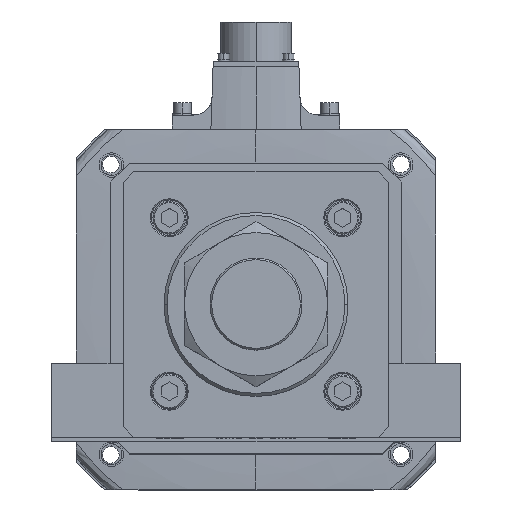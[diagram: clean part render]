
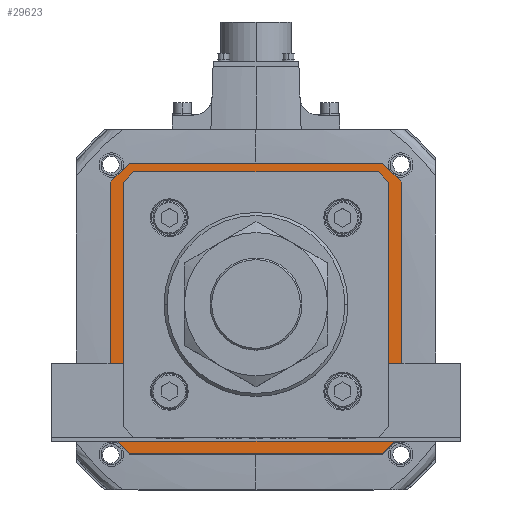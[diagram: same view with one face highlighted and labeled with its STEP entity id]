
A CAD part, top view. The second image highlights one B-rep face of the part: STEP entity #29623.
In plain terms, the highlighted planar face has unit normal (0, 0, 1).
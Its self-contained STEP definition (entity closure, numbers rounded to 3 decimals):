
#226 = LINE ( 'NONE', #48073, #8252 ) ;
#643 = DIRECTION ( 'NONE',  ( -0.707, 0.707, 0. ) ) ;
#905 = EDGE_CURVE ( 'NONE', #42449, #38513, #10309, .T. ) ;
#1090 = LINE ( 'NONE', #52008, #45189 ) ;
#2361 = DIRECTION ( 'NONE',  ( -0.707, 0.707, 0. ) ) ;
#2398 = DIRECTION ( 'NONE',  ( -1., 0., 0. ) ) ;
#4025 = EDGE_CURVE ( 'NONE', #45314, #32119, #52982, .T. ) ;
#4689 = VECTOR ( 'NONE', #26787, 1000. ) ;
#5168 = DIRECTION ( 'NONE',  ( 0., 1., 0. ) ) ;
#5181 = VERTEX_POINT ( 'NONE', #25546 ) ;
#5380 = LINE ( 'NONE', #49589, #8706 ) ;
#5396 = VECTOR ( 'NONE', #21217, 1000. ) ;
#7716 = CARTESIAN_POINT ( 'NONE',  ( -62., -71., -142. ) ) ;
#8168 = EDGE_CURVE ( 'NONE', #29006, #8605, #29998, .T. ) ;
#8172 = ORIENTED_EDGE ( 'NONE', *, *, #42253, .T. ) ;
#8252 = VECTOR ( 'NONE', #5168, 1000. ) ;
#8605 = VERTEX_POINT ( 'NONE', #12719 ) ;
#8651 = VECTOR ( 'NONE', #17523, 1000. ) ;
#8706 = VECTOR ( 'NONE', #19745, 1000. ) ;
#8908 = VECTOR ( 'NONE', #33525, 1000. ) ;
#9394 = LINE ( 'NONE', #15295, #26099 ) ;
#10013 = DIRECTION ( 'NONE',  ( 1., 0., 0. ) ) ;
#10141 = CARTESIAN_POINT ( 'NONE',  ( -62., 71., -142. ) ) ;
#10309 = LINE ( 'NONE', #30444, #49697 ) ;
#10348 = CARTESIAN_POINT ( 'NONE',  ( -63., -58.793, -142. ) ) ;
#11205 = ORIENTED_EDGE ( 'NONE', *, *, #8168, .T. ) ;
#11362 = CARTESIAN_POINT ( 'NONE',  ( 71., 62., -142. ) ) ;
#11742 = LINE ( 'NONE', #21901, #27747 ) ;
#12293 = CARTESIAN_POINT ( 'NONE',  ( 62., 71., -142. ) ) ;
#12393 = DIRECTION ( 'NONE',  ( 0., -1., 0. ) ) ;
#12719 = CARTESIAN_POINT ( 'NONE',  ( 58.793, -63., -142. ) ) ;
#13721 = ORIENTED_EDGE ( 'NONE', *, *, #29848, .F. ) ;
#15295 = CARTESIAN_POINT ( 'NONE',  ( 0., 63., -142. ) ) ;
#15491 = CARTESIAN_POINT ( 'NONE',  ( -71., -62., -142. ) ) ;
#16456 = CARTESIAN_POINT ( 'NONE',  ( -58.793, -63., -142. ) ) ;
#16747 = LINE ( 'NONE', #25661, #5396 ) ;
#16820 = ORIENTED_EDGE ( 'NONE', *, *, #28193, .F. ) ;
#17523 = DIRECTION ( 'NONE',  ( -0.707, -0.707, 0. ) ) ;
#17734 = EDGE_CURVE ( 'NONE', #32635, #5181, #9394, .T. ) ;
#18341 = VECTOR ( 'NONE', #36721, 1000. ) ;
#18725 = VERTEX_POINT ( 'NONE', #11362 ) ;
#19598 = FACE_BOUND ( 'NONE', #44771, .T. ) ;
#19745 = DIRECTION ( 'NONE',  ( 0.707, -0.707, 0. ) ) ;
#21217 = DIRECTION ( 'NONE',  ( 0.707, 0.707, 0. ) ) ;
#21901 = CARTESIAN_POINT ( 'NONE',  ( -62., -71., -142. ) ) ;
#22038 = CARTESIAN_POINT ( 'NONE',  ( 60.896, 60.896, -142. ) ) ;
#22220 = DIRECTION ( 'NONE',  ( 0.707, -0.707, 0. ) ) ;
#22683 = CARTESIAN_POINT ( 'NONE',  ( 71., -62., -142. ) ) ;
#24013 = LINE ( 'NONE', #22683, #4689 ) ;
#24972 = ORIENTED_EDGE ( 'NONE', *, *, #52816, .F. ) ;
#25012 = ORIENTED_EDGE ( 'NONE', *, *, #4025, .F. ) ;
#25247 = EDGE_CURVE ( 'NONE', #39460, #49319, #24013, .T. ) ;
#25511 = CARTESIAN_POINT ( 'NONE',  ( 0., 0., -142. ) ) ;
#25546 = CARTESIAN_POINT ( 'NONE',  ( 58.793, 63., -142. ) ) ;
#25661 = CARTESIAN_POINT ( 'NONE',  ( -60.896, 60.896, -142. ) ) ;
#26099 = VECTOR ( 'NONE', #49612, 1000. ) ;
#26609 = VECTOR ( 'NONE', #44672, 1000. ) ;
#26753 = LINE ( 'NONE', #27938, #30089 ) ;
#26787 = DIRECTION ( 'NONE',  ( -0.707, -0.707, 0. ) ) ;
#27318 = VECTOR ( 'NONE', #22220, 1000. ) ;
#27747 = VECTOR ( 'NONE', #643, 1000. ) ;
#27938 = CARTESIAN_POINT ( 'NONE',  ( 62., -71., -142. ) ) ;
#28193 = EDGE_CURVE ( 'NONE', #32119, #43273, #1090, .T. ) ;
#28439 = CARTESIAN_POINT ( 'NONE',  ( 0., -63., -142. ) ) ;
#28516 = EDGE_CURVE ( 'NONE', #8605, #28860, #39151, .T. ) ;
#28860 = VERTEX_POINT ( 'NONE', #16456 ) ;
#28893 = VERTEX_POINT ( 'NONE', #51333 ) ;
#29006 = VERTEX_POINT ( 'NONE', #43338 ) ;
#29301 = LINE ( 'NONE', #40213, #26609 ) ;
#29307 = ORIENTED_EDGE ( 'NONE', *, *, #37679, .F. ) ;
#29623 = ADVANCED_FACE ( 'NONE', ( #19598, #48302 ), #34115, .T. ) ;
#29848 = EDGE_CURVE ( 'NONE', #53394, #45314, #226, .T. ) ;
#29989 = DIRECTION ( 'NONE',  ( 1., 0., 0. ) ) ;
#29998 = LINE ( 'NONE', #47021, #8651 ) ;
#30089 = VECTOR ( 'NONE', #2398, 1000. ) ;
#30444 = CARTESIAN_POINT ( 'NONE',  ( -63., 0., -142. ) ) ;
#32119 = VERTEX_POINT ( 'NONE', #10141 ) ;
#32635 = VERTEX_POINT ( 'NONE', #54382 ) ;
#32706 = VERTEX_POINT ( 'NONE', #7716 ) ;
#32987 = EDGE_CURVE ( 'NONE', #18725, #39460, #29301, .T. ) ;
#33525 = DIRECTION ( 'NONE',  ( 0.707, 0.707, 0. ) ) ;
#34115 = PLANE ( 'NONE',  #39964 ) ;
#34596 = EDGE_CURVE ( 'NONE', #43273, #18725, #5380, .T. ) ;
#35297 = CARTESIAN_POINT ( 'NONE',  ( -71., 62., -142. ) ) ;
#35304 = LINE ( 'NONE', #45118, #42023 ) ;
#36499 = LINE ( 'NONE', #38398, #46497 ) ;
#36721 = DIRECTION ( 'NONE',  ( -1., 0., 0. ) ) ;
#36904 = ORIENTED_EDGE ( 'NONE', *, *, #17734, .T. ) ;
#37679 = EDGE_CURVE ( 'NONE', #32706, #53394, #11742, .T. ) ;
#38300 = ORIENTED_EDGE ( 'NONE', *, *, #50284, .T. ) ;
#38398 = CARTESIAN_POINT ( 'NONE',  ( 63., 0., -142. ) ) ;
#38507 = CARTESIAN_POINT ( 'NONE',  ( 62., -71., -142. ) ) ;
#38513 = VERTEX_POINT ( 'NONE', #51103 ) ;
#38642 = ORIENTED_EDGE ( 'NONE', *, *, #28516, .T. ) ;
#39151 = LINE ( 'NONE', #28439, #18341 ) ;
#39460 = VERTEX_POINT ( 'NONE', #46477 ) ;
#39964 = AXIS2_PLACEMENT_3D ( 'NONE', #25511, #51650, #29989 ) ;
#40213 = CARTESIAN_POINT ( 'NONE',  ( 71., 62., -142. ) ) ;
#42023 = VECTOR ( 'NONE', #2361, 1000. ) ;
#42253 = EDGE_CURVE ( 'NONE', #38513, #32635, #16747, .T. ) ;
#42449 = VERTEX_POINT ( 'NONE', #10348 ) ;
#43273 = VERTEX_POINT ( 'NONE', #12293 ) ;
#43338 = CARTESIAN_POINT ( 'NONE',  ( 63., -58.793, -142. ) ) ;
#44079 = LINE ( 'NONE', #22038, #27318 ) ;
#44672 = DIRECTION ( 'NONE',  ( 0., -1., 0. ) ) ;
#44771 = EDGE_LOOP ( 'NONE', ( #38300, #11205, #38642, #48834, #46786, #8172, #36904, #46767 ) ) ;
#45118 = CARTESIAN_POINT ( 'NONE',  ( -60.896, -60.896, -142. ) ) ;
#45189 = VECTOR ( 'NONE', #10013, 1000. ) ;
#45314 = VERTEX_POINT ( 'NONE', #35297 ) ;
#46477 = CARTESIAN_POINT ( 'NONE',  ( 71., -62., -142. ) ) ;
#46497 = VECTOR ( 'NONE', #12393, 1000. ) ;
#46767 = ORIENTED_EDGE ( 'NONE', *, *, #54720, .T. ) ;
#46786 = ORIENTED_EDGE ( 'NONE', *, *, #905, .T. ) ;
#47021 = CARTESIAN_POINT ( 'NONE',  ( 60.896, -60.896, -142. ) ) ;
#47073 = DIRECTION ( 'NONE',  ( 0., 1., 0. ) ) ;
#48073 = CARTESIAN_POINT ( 'NONE',  ( -71., 62., -142. ) ) ;
#48302 = FACE_OUTER_BOUND ( 'NONE', #52781, .T. ) ;
#48643 = EDGE_CURVE ( 'NONE', #28860, #42449, #35304, .T. ) ;
#48834 = ORIENTED_EDGE ( 'NONE', *, *, #48643, .T. ) ;
#49319 = VERTEX_POINT ( 'NONE', #38507 ) ;
#49523 = ORIENTED_EDGE ( 'NONE', *, *, #32987, .F. ) ;
#49589 = CARTESIAN_POINT ( 'NONE',  ( 71., 62., -142. ) ) ;
#49612 = DIRECTION ( 'NONE',  ( 1., 0., 0. ) ) ;
#49697 = VECTOR ( 'NONE', #47073, 1000. ) ;
#50135 = CARTESIAN_POINT ( 'NONE',  ( -62., 71., -142. ) ) ;
#50284 = EDGE_CURVE ( 'NONE', #28893, #29006, #36499, .T. ) ;
#51103 = CARTESIAN_POINT ( 'NONE',  ( -63., 58.793, -142. ) ) ;
#51333 = CARTESIAN_POINT ( 'NONE',  ( 63., 58.793, -142. ) ) ;
#51650 = DIRECTION ( 'NONE',  ( 0., 0., 1. ) ) ;
#52008 = CARTESIAN_POINT ( 'NONE',  ( 62., 71., -142. ) ) ;
#52781 = EDGE_LOOP ( 'NONE', ( #16820, #25012, #13721, #29307, #24972, #53606, #49523, #54270 ) ) ;
#52816 = EDGE_CURVE ( 'NONE', #49319, #32706, #26753, .T. ) ;
#52982 = LINE ( 'NONE', #50135, #8908 ) ;
#53394 = VERTEX_POINT ( 'NONE', #15491 ) ;
#53606 = ORIENTED_EDGE ( 'NONE', *, *, #25247, .F. ) ;
#54270 = ORIENTED_EDGE ( 'NONE', *, *, #34596, .F. ) ;
#54382 = CARTESIAN_POINT ( 'NONE',  ( -58.793, 63., -142. ) ) ;
#54720 = EDGE_CURVE ( 'NONE', #5181, #28893, #44079, .T. ) ;
